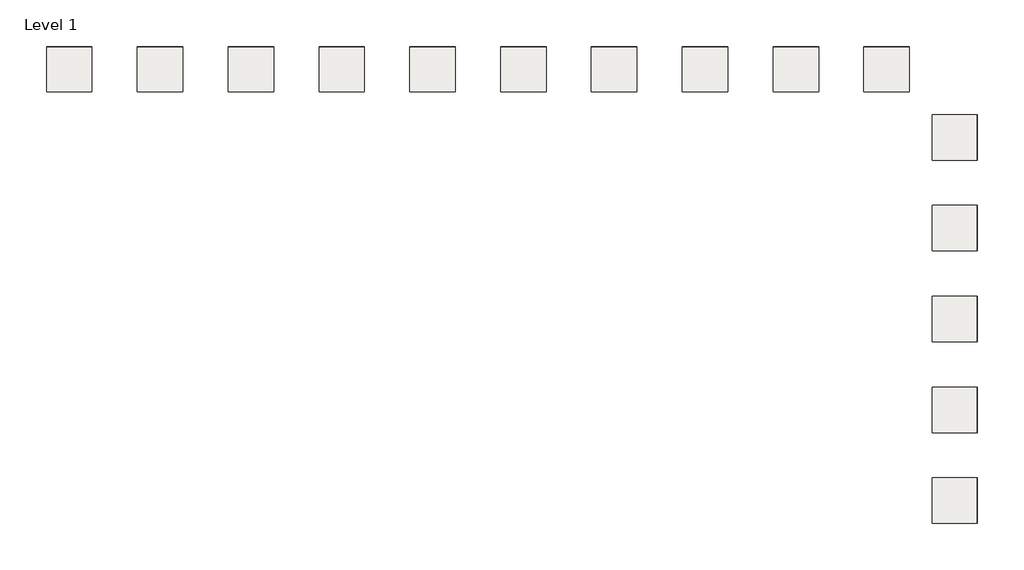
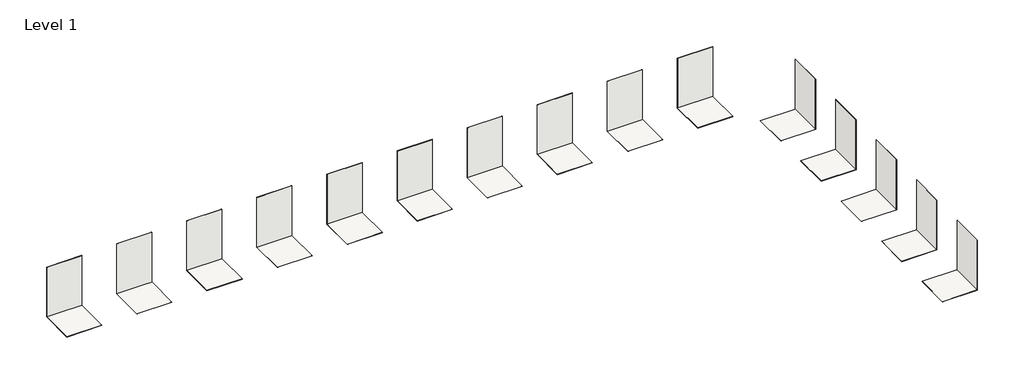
# One storey: 30 coverings.
"""IFC4 building model written with IfcOpenShell, lengths in millimetres."""

from ifc_helpers import new_model, si_unit, frame, origin, origin_with_axes, place, context, project, spatial, polyline, outline, extrude, element, save

model = new_model("IFC4")

# Units and contexts
model_context = context("Model", 3, world=origin())
ifc_project = project(units=[si_unit("LENGTHUNIT", "METRE", prefix="MILLI")], contexts=[model_context])

# Site, building, storey
site = spatial("IfcSite", under=ifc_project)
building = spatial("IfcBuilding", under=site)
storey = spatial("IfcBuildingStorey", under=building, Name="Level 1", Elevation=0.0)

# Coverings
placement = place(None, origin())
element("IfcCovering", 1, ObjectType="PGR_Porcelanosa_CeramicTiles_Ascot_Teca-294x1200mm-100161123", at=placement, inside=storey, context=model_context, shape_type="SweptSolid", body=[
    extrude(outline(polyline([(3527.0774266, -4501.9826748), (1527.0774266, -4501.9826748), (1527.0774266, -2501.9826748), (3527.0774266, -2501.9826748), (3527.0774266, -4501.9826748)])), frame((0.0, 0.0, -12.0), z_axis=(0.0, 0.0, 1.0), x_axis=(1.0, 0.0, 0.0)), (0.0, 0.0, 1.0), 12.0),
])
element("IfcCovering", 2, ObjectType="PGR_Porcelanosa_CeramicTiles_Ascot_Teca-294x1200mm-100161123", at=placement, inside=storey, context=model_context, shape_type="SweptSolid", body=[
    extrude(outline(polyline([(3515.0774266, -4501.9826748), (3515.0774266, -2501.9826748), (3527.0774266, -2501.9826748), (3527.0774266, -4501.9826748), (3515.0774266, -4501.9826748)])), origin_with_axes(), (0.0, 0.0, 1.0), 3000.0),
])
element("IfcCovering", 3, ObjectType="PGR_Porcelanosa_CeramicTiles_Ascot_Olivo-294x1200mm-100161121", at=placement, inside=storey, context=model_context, shape_type="SweptSolid", body=[
    extrude(outline(polyline([(3527.0774266, -8501.9826748), (1527.0774266, -8501.9826748), (1527.0774266, -6501.9826748), (3527.0774266, -6501.9826748), (3527.0774266, -8501.9826748)])), frame((0.0, 0.0, -12.0), z_axis=(0.0, 0.0, 1.0), x_axis=(1.0, 0.0, 0.0)), (0.0, 0.0, 1.0), 12.0),
])
element("IfcCovering", 4, ObjectType="PGR_Porcelanosa_CeramicTiles_Ascot_Olivo-294x1200mm-100161121", at=placement, inside=storey, context=model_context, shape_type="SweptSolid", body=[
    extrude(outline(polyline([(3515.0774266, -8501.9826748), (3515.0774266, -6501.9826748), (3527.0774266, -6501.9826748), (3527.0774266, -8501.9826748), (3515.0774266, -8501.9826748)])), origin_with_axes(), (0.0, 0.0, 1.0), 3000.0),
])
element("IfcCovering", 5, ObjectType="PGR_Porcelanosa_CeramicTiles_Ascot_Teca-193x1200mm-100161038", at=placement, inside=storey, context=model_context, shape_type="SweptSolid", body=[
    extrude(outline(polyline([(-3472.9225734, 498.0173252), (-3472.9225734, -1501.9826748), (-5472.9225734, -1501.9826748), (-5472.9225734, 498.0173252), (-3472.9225734, 498.0173252)])), frame((0.0, 0.0, -12.0), z_axis=(0.0, 0.0, 1.0), x_axis=(1.0, 0.0, 0.0)), (0.0, 0.0, 1.0), 12.0),
])
element("IfcCovering", 6, ObjectType="PGR_Porcelanosa_CeramicTiles_Ascot_Teca-193x1200mm-100161038", at=placement, inside=storey, context=model_context, shape_type="SweptSolid", body=[
    extrude(outline(polyline([(-3472.9225734, 486.0173252), (-5472.9225734, 486.0173252), (-5472.9225734, 498.0173252), (-3472.9225734, 498.0173252), (-3472.9225734, 486.0173252)])), origin_with_axes(), (0.0, 0.0, 1.0), 3000.0),
])
element("IfcCovering", 7, ObjectType="PGR_Porcelanosa_CeramicTiles_Ascot_Olivo-193x1200mm-100161027", at=placement, inside=storey, context=model_context, shape_type="SweptSolid", body=[
    extrude(outline(polyline([(527.0774266, 498.0173252), (527.0774266, -1501.9826748), (-1472.9225734, -1501.9826748), (-1472.9225734, 498.0173252), (527.0774266, 498.0173252)])), frame((0.0, 0.0, -12.0), z_axis=(0.0, 0.0, 1.0), x_axis=(1.0, 0.0, 0.0)), (0.0, 0.0, 1.0), 12.0),
])
element("IfcCovering", 8, ObjectType="PGR_Porcelanosa_CeramicTiles_Ascot_Olivo-193x1200mm-100161027", at=placement, inside=storey, context=model_context, shape_type="SweptSolid", body=[
    extrude(outline(polyline([(527.0774266, 486.0173252), (-1472.9225734, 486.0173252), (-1472.9225734, 498.0173252), (527.0774266, 498.0173252), (527.0774266, 486.0173252)])), origin_with_axes(), (0.0, 0.0, 1.0), 3000.0),
])
element("IfcCovering", 9, ObjectType="PGR_Porcelanosa_CeramicTiles_Ascot_Grey-294x1200mm-100161120", at=placement, inside=storey, context=model_context, shape_type="SweptSolid", body=[
    extrude(outline(polyline([(3527.0774266, -12501.9826748), (1527.0774266, -12501.9826748), (1527.0774266, -10501.9826748), (3527.0774266, -10501.9826748), (3527.0774266, -12501.9826748)])), frame((0.0, 0.0, -12.0), z_axis=(0.0, 0.0, 1.0), x_axis=(1.0, 0.0, 0.0)), (0.0, 0.0, 1.0), 12.0),
])
element("IfcCovering", 10, ObjectType="PGR_Porcelanosa_CeramicTiles_Ascot_Grey-294x1200mm-100161120", at=placement, inside=storey, context=model_context, shape_type="SweptSolid", body=[
    extrude(outline(polyline([(3515.0774266, -12501.9826748), (3515.0774266, -10501.9826748), (3527.0774266, -10501.9826748), (3527.0774266, -12501.9826748), (3515.0774266, -12501.9826748)])), origin_with_axes(), (0.0, 0.0, 1.0), 3000.0),
])
element("IfcCovering", 11, ObjectType="PGR_Porcelanosa_CeramicTiles_Ascot_Grey-193x1200mm-100161025", at=placement, inside=storey, context=model_context, shape_type="SweptSolid", body=[
    extrude(outline(polyline([(-7472.9225734, 498.0173252), (-7472.9225734, -1501.9826748), (-9472.9225734, -1501.9826748), (-9472.9225734, 498.0173252), (-7472.9225734, 498.0173252)])), frame((0.0, 0.0, -12.0), z_axis=(0.0, 0.0, 1.0), x_axis=(1.0, 0.0, 0.0)), (0.0, 0.0, 1.0), 12.0),
])
element("IfcCovering", 12, ObjectType="PGR_Porcelanosa_CeramicTiles_Ascot_Grey-193x1200mm-100161025", at=placement, inside=storey, context=model_context, shape_type="SweptSolid", body=[
    extrude(outline(polyline([(-7472.9225734, 486.0173252), (-9472.9225734, 486.0173252), (-9472.9225734, 498.0173252), (-7472.9225734, 498.0173252), (-7472.9225734, 486.0173252)])), origin_with_axes(), (0.0, 0.0, 1.0), 3000.0),
])
element("IfcCovering", 13, ObjectType="PGR_Porcelanosa_CeramicTiles_Ascot_Teca_Antislip-193x1200mm-100161039", at=placement, inside=storey, context=model_context, shape_type="SweptSolid", body=[
    extrude(outline(polyline([(-15472.9225734, 498.0173252), (-15472.9225734, -1501.9826748), (-17472.9225734, -1501.9826748), (-17472.9225734, 498.0173252), (-15472.9225734, 498.0173252)])), frame((0.0, 0.0, -12.0), z_axis=(0.0, 0.0, 1.0), x_axis=(1.0, 0.0, 0.0)), (0.0, 0.0, 1.0), 12.0),
])
element("IfcCovering", 14, ObjectType="PGR_Porcelanosa_CeramicTiles_Ascot_Teca_Ant.-193x1200mm-100161039", at=placement, inside=storey, context=model_context, shape_type="SweptSolid", body=[
    extrude(outline(polyline([(-15472.9225734, 486.0173252), (-17472.9225734, 486.0173252), (-17472.9225734, 498.0173252), (-15472.9225734, 498.0173252), (-15472.9225734, 486.0173252)])), origin_with_axes(), (0.0, 0.0, 1.0), 3000.0),
])
element("IfcCovering", 15, ObjectType="PGR_Porcelanosa_CeramicTiles_Ascot_Grey_Ant.-193x1200mm-100161026", at=placement, inside=storey, context=model_context, shape_type="SweptSolid", body=[
    extrude(outline(polyline([(-11472.9225734, 498.0173252), (-11472.9225734, -1501.9826748), (-13472.9225734, -1501.9826748), (-13472.9225734, 498.0173252), (-11472.9225734, 498.0173252)])), frame((0.0, 0.0, -12.0), z_axis=(0.0, 0.0, 1.0), x_axis=(1.0, 0.0, 0.0)), (0.0, 0.0, 1.0), 12.0),
])
element("IfcCovering", 16, ObjectType="PGR_Porcelanosa_CeramicTiles_Ascot_Grey_Ant.-193x1200mm-100161026", at=placement, inside=storey, context=model_context, shape_type="SweptSolid", body=[
    extrude(outline(polyline([(-11472.9225734, 486.0173252), (-13472.9225734, 486.0173252), (-13472.9225734, 498.0173252), (-11472.9225734, 498.0173252), (-11472.9225734, 486.0173252)])), origin_with_axes(), (0.0, 0.0, 1.0), 3000.0),
])
element("IfcCovering", 17, ObjectType="PGR_Porcelanosa_CeramicTiles_Ascot_Olivo_Ant.-193x1200mm-100161028", at=placement, inside=storey, context=model_context, shape_type="SweptSolid", body=[
    extrude(outline(polyline([(-19472.9225734, 498.0173252), (-19472.9225734, -1501.9826748), (-21472.9225734, -1501.9826748), (-21472.9225734, 498.0173252), (-19472.9225734, 498.0173252)])), frame((0.0, 0.0, -12.0), z_axis=(0.0, 0.0, 1.0), x_axis=(1.0, 0.0, 0.0)), (0.0, 0.0, 1.0), 12.0),
])
element("IfcCovering", 18, ObjectType="PGR_Porcelanosa_CeramicTiles_Ascot_Olivo_Ant.-193x1200mm-100161028", at=placement, inside=storey, context=model_context, shape_type="SweptSolid", body=[
    extrude(outline(polyline([(-19472.9225734, 486.0173252), (-21472.9225734, 486.0173252), (-21472.9225734, 498.0173252), (-19472.9225734, 498.0173252), (-19472.9225734, 486.0173252)])), origin_with_axes(), (0.0, 0.0, 1.0), 3000.0),
])
element("IfcCovering", 19, ObjectType="PGR_Porcelanosa_CeramicTiles_Ascot_Arce-193x1200mm-100161043", at=placement, inside=storey, context=model_context, shape_type="SweptSolid", body=[
    extrude(outline(polyline([(-35472.9225734, 487.0173252), (-37472.9225734, 487.0173252), (-37472.9225734, 498.0173252), (-35472.9225734, 498.0173252), (-35472.9225734, 487.0173252)])), origin_with_axes(), (0.0, 0.0, 1.0), 3000.0),
])
element("IfcCovering", 20, ObjectType="PGR_Porcelanosa_CeramicTiles_Ascot_Arce-294x1200mm-100161044", at=placement, inside=storey, context=model_context, shape_type="SweptSolid", body=[
    extrude(outline(polyline([(3516.0774266, -16501.9826748), (3516.0774266, -14501.9826748), (3527.0774266, -14501.9826748), (3527.0774266, -16501.9826748), (3516.0774266, -16501.9826748)])), origin_with_axes(), (0.0, 0.0, 1.0), 3000.0),
])
element("IfcCovering", 21, ObjectType="PGR_Porcelanosa_CeramicTiles_Ascot_Arce_Ant.-193x1200mm-100161045", at=placement, inside=storey, context=model_context, shape_type="SweptSolid", body=[
    extrude(outline(polyline([(-31472.9225734, 487.0173252), (-33472.9225734, 487.0173252), (-33472.9225734, 498.0173252), (-31472.9225734, 498.0173252), (-31472.9225734, 487.0173252)])), origin_with_axes(), (0.0, 0.0, 1.0), 3000.0),
])
element("IfcCovering", 22, ObjectType="PGR_Porcelanosa_CeramicTiles_Ascot_Roble-193x1200mm-100161029", at=placement, inside=storey, context=model_context, shape_type="SweptSolid", body=[
    extrude(outline(polyline([(-27472.9225734, 487.0173252), (-29472.9225734, 487.0173252), (-29472.9225734, 498.0173252), (-27472.9225734, 498.0173252), (-27472.9225734, 487.0173252)])), origin_with_axes(), (0.0, 0.0, 1.0), 3000.0),
])
element("IfcCovering", 23, ObjectType="PGR_Porcelanosa_CeramicTiles_Ascot_Roble-294x1200mm-100161122", at=placement, inside=storey, context=model_context, shape_type="SweptSolid", body=[
    extrude(outline(polyline([(3516.0774266, -20501.9826748), (3516.0774266, -18501.9826748), (3527.0774266, -18501.9826748), (3527.0774266, -20501.9826748), (3516.0774266, -20501.9826748)])), origin_with_axes(), (0.0, 0.0, 1.0), 3000.0),
])
element("IfcCovering", 24, ObjectType="PGR_Porcelanosa_CeramicTiles_Ascot_Roble_Ant.-193x1200mm-100161037", at=placement, inside=storey, context=model_context, shape_type="SweptSolid", body=[
    extrude(outline(polyline([(-23472.9225734, 487.0173252), (-25472.9225734, 487.0173252), (-25472.9225734, 498.0173252), (-23472.9225734, 498.0173252), (-23472.9225734, 487.0173252)])), origin_with_axes(), (0.0, 0.0, 1.0), 3000.0),
])
element("IfcCovering", 25, ObjectType="PGR_Porcelanosa_CeramicTiles_Ascot_Arce-193x1200mm-100161043", at=placement, inside=storey, context=model_context, shape_type="SweptSolid", body=[
    extrude(outline(polyline([(-35472.9225734, 498.0173252), (-35472.9225734, -1501.9826748), (-37472.9225734, -1501.9826748), (-37472.9225734, 498.0173252), (-35472.9225734, 498.0173252)])), frame((0.0, 0.0, -11.0), z_axis=(0.0, 0.0, 1.0), x_axis=(1.0, 0.0, 0.0)), (0.0, 0.0, 1.0), 11.0),
])
element("IfcCovering", 26, ObjectType="PGR_Porcelanosa_CeramicTiles_Ascot_Arce-294x1200mm-100161044", at=placement, inside=storey, context=model_context, shape_type="SweptSolid", body=[
    extrude(outline(polyline([(3527.0774266, -16501.9826748), (1527.0774266, -16501.9826748), (1527.0774266, -14501.9826748), (3527.0774266, -14501.9826748), (3527.0774266, -16501.9826748)])), frame((0.0, 0.0, -11.0), z_axis=(0.0, 0.0, 1.0), x_axis=(1.0, 0.0, 0.0)), (0.0, 0.0, 1.0), 11.0),
])
element("IfcCovering", 27, ObjectType="PGR_Porcelanosa_CeramicTiles_Ascot_Arce_Ant.-193x1200mm-100161045", at=placement, inside=storey, context=model_context, shape_type="SweptSolid", body=[
    extrude(outline(polyline([(-31472.9225734, 498.0173252), (-31472.9225734, -1501.9826748), (-33472.9225734, -1501.9826748), (-33472.9225734, 498.0173252), (-31472.9225734, 498.0173252)])), frame((0.0, 0.0, -11.0), z_axis=(0.0, 0.0, 1.0), x_axis=(1.0, 0.0, 0.0)), (0.0, 0.0, 1.0), 11.0),
])
element("IfcCovering", 28, ObjectType="PGR_Porcelanosa_CeramicTiles_Ascot_Roble-193x1200mm-100161029", at=placement, inside=storey, context=model_context, shape_type="SweptSolid", body=[
    extrude(outline(polyline([(-27472.9225734, 498.0173252), (-27472.9225734, -1501.9826748), (-29472.9225734, -1501.9826748), (-29472.9225734, 498.0173252), (-27472.9225734, 498.0173252)])), frame((0.0, 0.0, -11.0), z_axis=(0.0, 0.0, 1.0), x_axis=(1.0, 0.0, 0.0)), (0.0, 0.0, 1.0), 11.0),
])
element("IfcCovering", 29, ObjectType="PGR_Porcelanosa_CeramicTiles_Ascot_Roble-294x1200mm-100161122", at=placement, inside=storey, context=model_context, shape_type="SweptSolid", body=[
    extrude(outline(polyline([(3527.0774266, -20501.9826748), (1527.0774266, -20501.9826748), (1527.0774266, -18501.9826748), (3527.0774266, -18501.9826748), (3527.0774266, -20501.9826748)])), frame((0.0, 0.0, -11.0), z_axis=(0.0, 0.0, 1.0), x_axis=(1.0, 0.0, 0.0)), (0.0, 0.0, 1.0), 11.0),
])
element("IfcCovering", 30, ObjectType="PGR_Porcelanosa_CeramicTiles_Ascot_Roble_Ant.-193x1200mm-100161037", at=placement, inside=storey, context=model_context, shape_type="SweptSolid", body=[
    extrude(outline(polyline([(-23472.9225734, 498.0173252), (-23472.9225734, -1501.9826748), (-25472.9225734, -1501.9826748), (-25472.9225734, 498.0173252), (-23472.9225734, 498.0173252)])), frame((0.0, 0.0, -11.0), z_axis=(0.0, 0.0, 1.0), x_axis=(1.0, 0.0, 0.0)), (0.0, 0.0, 1.0), 11.0),
])

save(model, "model.ifc")
